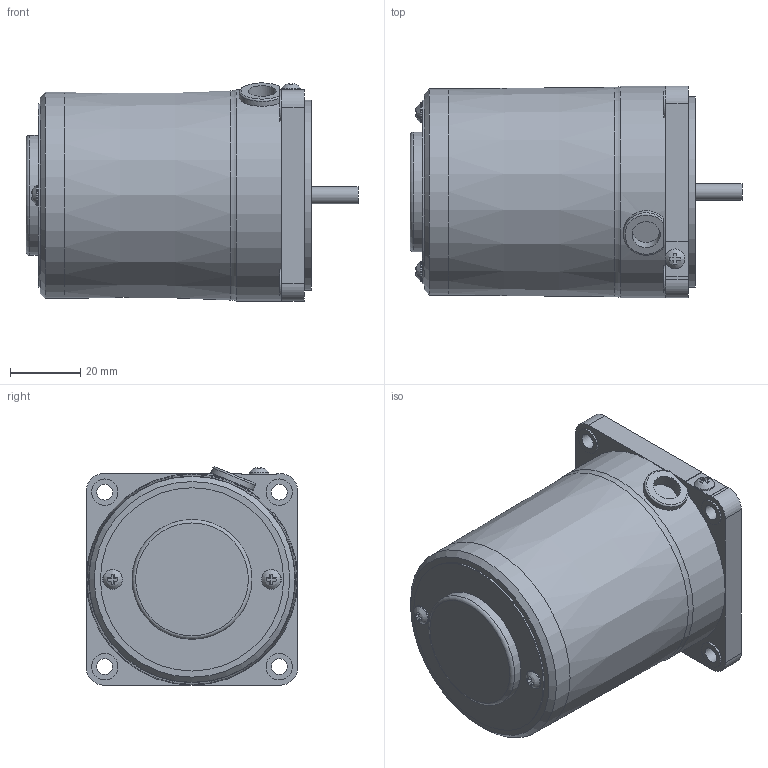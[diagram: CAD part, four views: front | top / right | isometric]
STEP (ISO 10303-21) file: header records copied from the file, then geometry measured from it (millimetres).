
FILE_DESCRIPTION(/* description */ (''),/* implementation_level */ '2;1');
FILE_NAME(/* name */ 'E:\도면작업\2016\0704) 미주향 SG 도면\3D MOTOR\SG6R\SG6R06G\SG6R06G_.stp',/* time_stamp */ '2016-12-12T16:14:10+09:00',/* author */ ('jy-jung'),/* organization */ (''),/* preprocessor_version */ 'ST-DEVELOPER v15.6',/* originating_system */ 'Autodesk Inventor 2015',/* authorisation */ '');
FILE_SCHEMA (('AUTOMOTIVE_DESIGN { 1 0 10303 214 3 1 1 }'));
Length unit declared in the file: millimetre
Products named in the file (1): 부품3
Bounding box: 94.2 x 60 x 61.91 mm (x, y, z)
Volume: 213859.2 mm3; surface area: 24011.9 mm2
Topology: 1 solids, 5 shells, 148 faces, 368 edges, 240 vertices
Faces by surface type: plane 98, cylinder 38, torus 7, bspline 3, cone 2
Full cylindrical faces by diameter (mm): 3 x2, 3.5 x2, 4.5 x4, 4.76 x1, 5.6 x3, 7.5 x4, 8 x1, 10.1 x1, 25 x1, 34 x1, 52 x1, 54 x1, 58.5 x1, 60 x1
Entity records: 4682 total; most frequent: CARTESIAN_POINT 1084, DIRECTION 678, ORIENTED_EDGE 668, EDGE_CURVE 334, AXIS2_PLACEMENT_3D 245, VERTEX_POINT 238, EDGE_LOOP 208, LINE 188
